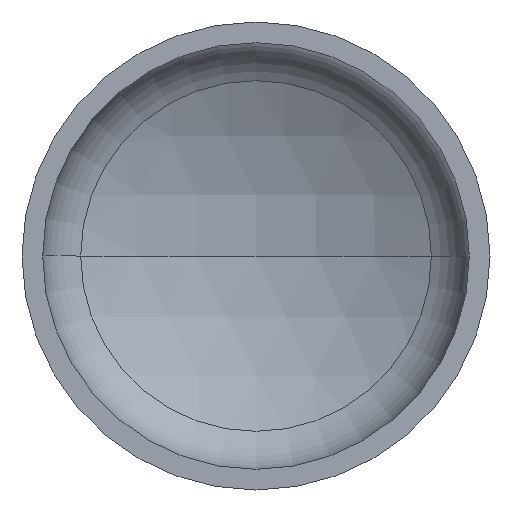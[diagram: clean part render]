
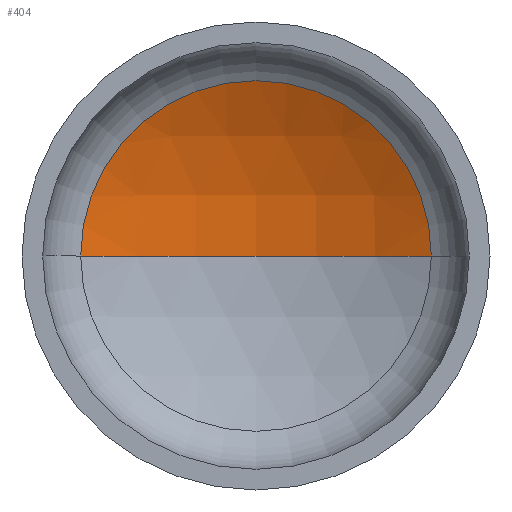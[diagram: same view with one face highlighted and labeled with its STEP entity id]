
A CAD part, front view. The second image highlights one B-rep face of the part: STEP entity #404.
In plain terms, the highlighted spherical face has radius 1520 mm.
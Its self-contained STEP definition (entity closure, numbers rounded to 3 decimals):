
#7 = AXIS2_PLACEMENT_3D ( 'NONE', #94, #143, #145 ) ;
#10 = EDGE_LOOP ( 'NONE', ( #142, #123, #102 ) ) ;
#13 = DIRECTION ( 'NONE',  ( 0., 0., -1. ) ) ;
#14 = AXIS2_PLACEMENT_3D ( 'NONE', #198, #13, #316 ) ;
#15 = AXIS2_PLACEMENT_3D ( 'NONE', #162, #397, #254 ) ;
#24 = VERTEX_POINT ( 'NONE', #226 ) ;
#57 = AXIS2_PLACEMENT_3D ( 'NONE', #203, #153, #293 ) ;
#71 = FACE_OUTER_BOUND ( 'NONE', #10, .T. ) ;
#75 = VERTEX_POINT ( 'NONE', #263 ) ;
#94 = CARTESIAN_POINT ( 'NONE',  ( 0., -986.795, 0. ) ) ;
#102 = ORIENTED_EDGE ( 'NONE', *, *, #144, .T. ) ;
#123 = ORIENTED_EDGE ( 'NONE', *, *, #344, .T. ) ;
#124 = CIRCLE ( 'NONE', #14, 1520. ) ;
#131 = VERTEX_POINT ( 'NONE', #381 ) ;
#142 = ORIENTED_EDGE ( 'NONE', *, *, #346, .F. ) ;
#143 = DIRECTION ( 'NONE',  ( 0., 0., 1. ) ) ;
#144 = EDGE_CURVE ( 'NONE', #75, #131, #361, .T. ) ;
#145 = DIRECTION ( 'NONE',  ( 1., 0., 0. ) ) ;
#153 = DIRECTION ( 'NONE',  ( 0., -1., 0. ) ) ;
#162 = CARTESIAN_POINT ( 'NONE',  ( 0., -986.795, 0. ) ) ;
#179 = SPHERICAL_SURFACE ( 'NONE', #15, 1520. ) ;
#198 = CARTESIAN_POINT ( 'NONE',  ( 0., -986.795, 0. ) ) ;
#203 = CARTESIAN_POINT ( 'NONE',  ( 0., 356.236, 0. ) ) ;
#226 = CARTESIAN_POINT ( 'NONE',  ( 0., 533.205, 0. ) ) ;
#254 = DIRECTION ( 'NONE',  ( -1., 0., 0. ) ) ;
#263 = CARTESIAN_POINT ( 'NONE',  ( 711.805, 356.236, 0. ) ) ;
#293 = DIRECTION ( 'NONE',  ( 1., 0., 0. ) ) ;
#316 = DIRECTION ( 'NONE',  ( -1., 0., 0. ) ) ;
#344 = EDGE_CURVE ( 'NONE', #24, #75, #124, .T. ) ;
#346 = EDGE_CURVE ( 'NONE', #24, #131, #389, .T. ) ;
#361 = CIRCLE ( 'NONE', #57, 711.805 ) ;
#381 = CARTESIAN_POINT ( 'NONE',  ( -711.805, 356.236, 0. ) ) ;
#389 = CIRCLE ( 'NONE', #7, 1520. ) ;
#397 = DIRECTION ( 'NONE',  ( 0., 0., -1. ) ) ;
#404 = ADVANCED_FACE ( 'NONE', ( #71 ), #179, .F. ) ;
